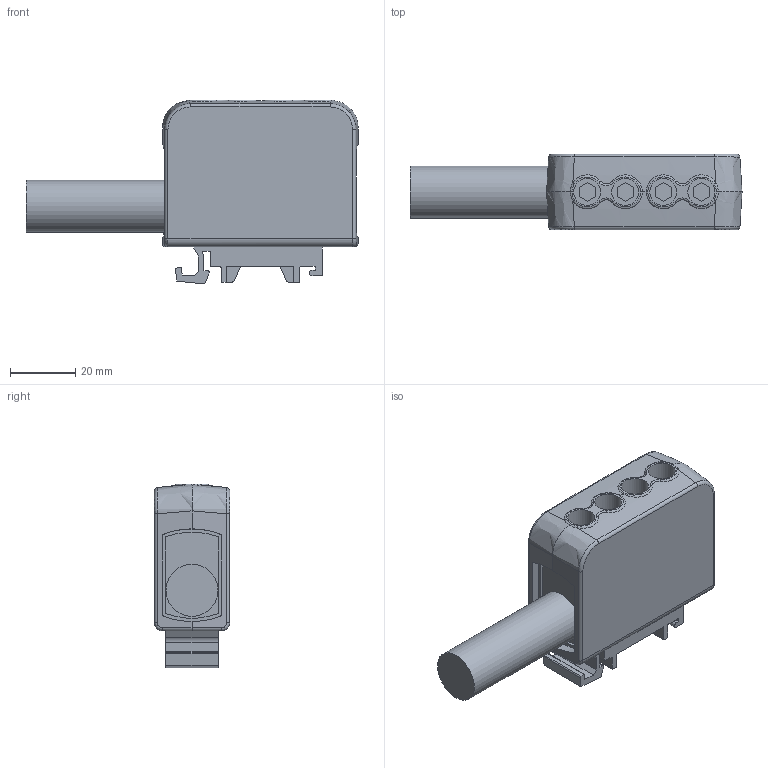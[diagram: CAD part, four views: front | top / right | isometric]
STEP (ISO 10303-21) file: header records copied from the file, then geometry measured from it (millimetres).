
FILE_DESCRIPTION(/* description */ ('Unknown'),/* implementation_level */ '2;1');
FILE_NAME(/* name */ 'UTB 95_2x35P',/* time_stamp */ '2024-01-18T09:49:35+01:00',/* author */ ('Unknown'),/* organization */ ('Unknown'),/* preprocessor_version */ 'ST-DEVELOPER v18.102',/* originating_system */ 'Solid Edge',/* authorisation */ 'Unknown');
FILE_SCHEMA (('AUTOMOTIVE_DESIGN {1 0 10303 214 3 1 1}'));
Length unit declared in the file: millimetre
Products named in the file (1): UTB 95_2x35P
Bounding box: 102.1 x 23.2 x 56.55 mm (x, y, z)
Volume: 67685.5 mm3; surface area: 15774.7 mm2
Topology: 1 solids, 1 shells, 164 faces, 419 edges, 271 vertices
Faces by surface type: plane 92, cylinder 40, bspline 28, torus 4
Full cylindrical faces by diameter (mm): 8.3 x4, 10 x2, 16 x1
Entity records: 5359 total; most frequent: CARTESIAN_POINT 1523, ORIENTED_EDGE 818, DIRECTION 736, EDGE_CURVE 409, VERTEX_POINT 268, LINE 248, VECTOR 248, AXIS2_PLACEMENT_3D 244
